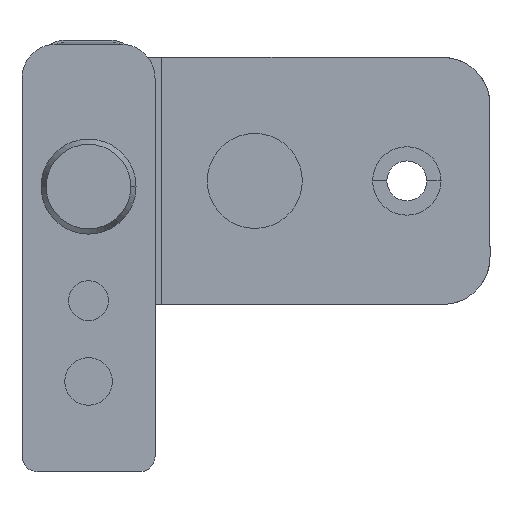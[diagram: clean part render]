
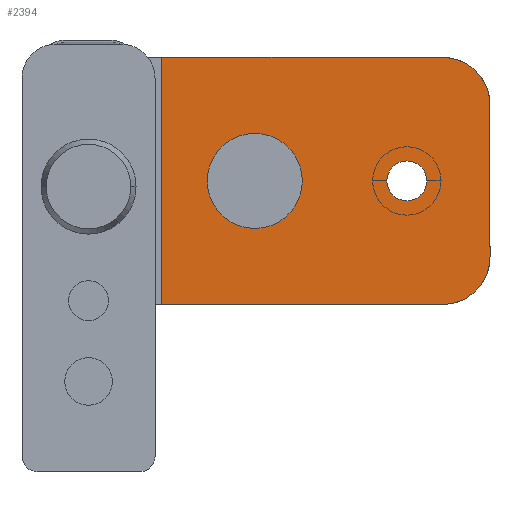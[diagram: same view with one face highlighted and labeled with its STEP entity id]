
A CAD part, front view. The second image highlights one B-rep face of the part: STEP entity #2394.
In plain terms, the highlighted planar face has unit normal (0, -1, 0).
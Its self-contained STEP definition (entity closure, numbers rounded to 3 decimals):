
#54 = CARTESIAN_POINT ( 'NONE',  ( 42.25, 497., 13.6 ) ) ;
#55 = DIRECTION ( 'NONE',  ( 0., 0., -1. ) ) ;
#99 = CARTESIAN_POINT ( 'NONE',  ( 37.25, 497., -7.4 ) ) ;
#100 = DIRECTION ( 'NONE',  ( 0., 1., 0. ) ) ;
#101 = DIRECTION ( 'NONE',  ( 1., 0., 0. ) ) ;
#164 = VERTEX_POINT ( 'NONE', #1406 ) ;
#504 = CARTESIAN_POINT ( 'NONE',  ( 35.6, 497., 0.6 ) ) ;
#509 = CARTESIAN_POINT ( 'NONE',  ( 31.4, 497., 0.6 ) ) ;
#625 = CARTESIAN_POINT ( 'NONE',  ( 33.5, 497., 0.6 ) ) ;
#626 = DIRECTION ( 'NONE',  ( 0., -1., 0. ) ) ;
#627 = DIRECTION ( 'NONE',  ( 1., 0., 0. ) ) ;
#751 = AXIS2_PLACEMENT_3D ( 'NONE', #1949, #1950, #1951 ) ;
#752 = AXIS2_PLACEMENT_3D ( 'NONE', #1952, #1953, #1954 ) ;
#771 = AXIS2_PLACEMENT_3D ( 'NONE', #1306, #1307, #1308 ) ;
#901 = AXIS2_PLACEMENT_3D ( 'NONE', #625, #626, #627 ) ;
#931 = AXIS2_PLACEMENT_3D ( 'NONE', #99, #100, #101 ) ;
#996 = CARTESIAN_POINT ( 'NONE',  ( 42.25, 497., 8.6 ) ) ;
#997 = CARTESIAN_POINT ( 'NONE',  ( 7.7, 497., -12.4 ) ) ;
#999 = CARTESIAN_POINT ( 'NONE',  ( 37.25, 497., 13.6 ) ) ;
#1173 = VECTOR ( 'NONE', #1958, 1000. ) ;
#1174 = LINE ( 'NONE', #1957, #1173 ) ;
#1175 = VECTOR ( 'NONE', #1956, 1000. ) ;
#1176 = CIRCLE ( 'NONE', #752, 5. ) ;
#1177 = LINE ( 'NONE', #1955, #1175 ) ;
#1178 = CIRCLE ( 'NONE', #751, 2.1 ) ;
#1183 = VECTOR ( 'NONE', #1944, 1000. ) ;
#1184 = LINE ( 'NONE', #1943, #1183 ) ;
#1305 = PLANE ( 'NONE',  #771 ) ;
#1306 = CARTESIAN_POINT ( 'NONE',  ( 42.25, 497., 13.6 ) ) ;
#1307 = DIRECTION ( 'NONE',  ( 0., 1., 0. ) ) ;
#1308 = DIRECTION ( 'NONE',  ( 1., 0., 0. ) ) ;
#1349 = EDGE_LOOP ( 'NONE', ( #2254, #2253 ) ) ;
#1406 = CARTESIAN_POINT ( 'NONE',  ( 42.25, 497., -7.4 ) ) ;
#1598 = VERTEX_POINT ( 'NONE', #504 ) ;
#1603 = VERTEX_POINT ( 'NONE', #509 ) ;
#1653 = VERTEX_POINT ( 'NONE', #3570 ) ;
#1774 = EDGE_CURVE ( 'NONE', #3587, #1927, #1184, .T. ) ;
#1777 = EDGE_CURVE ( 'NONE', #1603, #1598, #1178, .T. ) ;
#1778 = EDGE_CURVE ( 'NONE', #3587, #3584, #1176, .T. ) ;
#1779 = EDGE_CURVE ( 'NONE', #1927, #3585, #1177, .T. ) ;
#1780 = EDGE_CURVE ( 'NONE', #1653, #3585, #1174, .T. ) ;
#1822 = CARTESIAN_POINT ( 'NONE',  ( 7.7, 497., 13.6 ) ) ;
#1927 = VERTEX_POINT ( 'NONE', #1822 ) ;
#1943 = CARTESIAN_POINT ( 'NONE',  ( 42.25, 497., 13.6 ) ) ;
#1944 = DIRECTION ( 'NONE',  ( -1., 0., 0. ) ) ;
#1949 = CARTESIAN_POINT ( 'NONE',  ( 33.5, 497., 0.6 ) ) ;
#1950 = DIRECTION ( 'NONE',  ( 0., -1., 0. ) ) ;
#1951 = DIRECTION ( 'NONE',  ( 1., 0., 0. ) ) ;
#1952 = CARTESIAN_POINT ( 'NONE',  ( 37.25, 497., 8.6 ) ) ;
#1953 = DIRECTION ( 'NONE',  ( 0., 1., 0. ) ) ;
#1954 = DIRECTION ( 'NONE',  ( 1., 0., 0. ) ) ;
#1955 = CARTESIAN_POINT ( 'NONE',  ( 7.7, 497., 13.6 ) ) ;
#1956 = DIRECTION ( 'NONE',  ( 0., 0., -1. ) ) ;
#1957 = CARTESIAN_POINT ( 'NONE',  ( 42.25, 497., -12.4 ) ) ;
#1958 = DIRECTION ( 'NONE',  ( -1., 0., 0. ) ) ;
#2247 = ORIENTED_EDGE ( 'NONE', *, *, #4528, .F. ) ;
#2248 = ORIENTED_EDGE ( 'NONE', *, *, #1780, .F. ) ;
#2249 = ORIENTED_EDGE ( 'NONE', *, *, #1779, .T. ) ;
#2250 = ORIENTED_EDGE ( 'NONE', *, *, #1774, .T. ) ;
#2251 = ORIENTED_EDGE ( 'NONE', *, *, #1778, .F. ) ;
#2252 = ORIENTED_EDGE ( 'NONE', *, *, #4509, .F. ) ;
#2253 = ORIENTED_EDGE ( 'NONE', *, *, #1777, .F. ) ;
#2254 = ORIENTED_EDGE ( 'NONE', *, *, #3847, .F. ) ;
#2394 = ADVANCED_FACE ( 'NONE', ( #2828, #2829 ), #1305, .F. ) ;
#2828 = FACE_BOUND ( 'NONE', #1349, .T. ) ;
#2829 = FACE_OUTER_BOUND ( 'NONE', #3645, .T. ) ;
#3111 = CIRCLE ( 'NONE', #901, 2.1 ) ;
#3191 = LINE ( 'NONE', #54, #3192 ) ;
#3192 = VECTOR ( 'NONE', #55, 1000. ) ;
#3223 = CIRCLE ( 'NONE', #931, 5. ) ;
#3570 = CARTESIAN_POINT ( 'NONE',  ( 37.25, 497., -12.4 ) ) ;
#3584 = VERTEX_POINT ( 'NONE', #996 ) ;
#3585 = VERTEX_POINT ( 'NONE', #997 ) ;
#3587 = VERTEX_POINT ( 'NONE', #999 ) ;
#3645 = EDGE_LOOP ( 'NONE', ( #2252, #2251, #2250, #2249, #2248, #2247 ) ) ;
#3847 = EDGE_CURVE ( 'NONE', #1598, #1603, #3111, .T. ) ;
#4509 = EDGE_CURVE ( 'NONE', #3584, #164, #3191, .T. ) ;
#4528 = EDGE_CURVE ( 'NONE', #164, #1653, #3223, .T. ) ;
